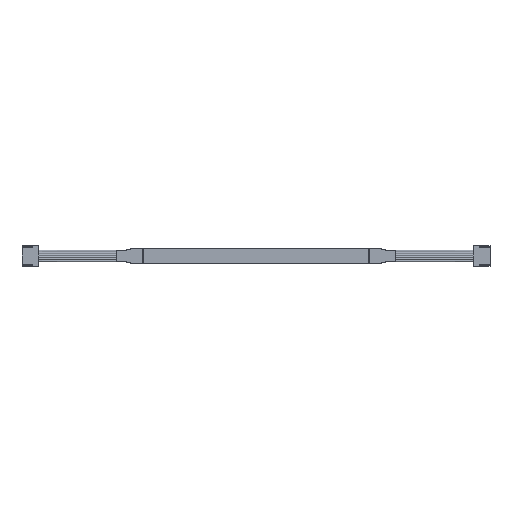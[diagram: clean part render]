
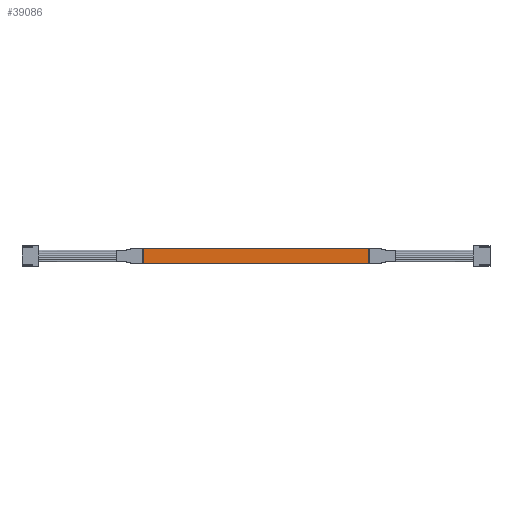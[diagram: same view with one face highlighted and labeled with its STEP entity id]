
A CAD part, front view. The second image highlights one B-rep face of the part: STEP entity #39086.
In plain terms, the highlighted planar face has unit normal (0, -1, 0).
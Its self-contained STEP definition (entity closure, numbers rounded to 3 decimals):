
#376 = DIRECTION ( 'NONE',  ( 0., 0., 1. ) ) ;
#2270 = EDGE_CURVE ( 'NONE', #21206, #67697, #8004, .T. ) ;
#8004 = LINE ( 'NONE', #24311, #31382 ) ;
#8819 = CARTESIAN_POINT ( 'NONE',  ( 35., -0.2, 6. ) ) ;
#8854 = EDGE_LOOP ( 'NONE', ( #42681, #69630, #54636, #44085 ) ) ;
#11349 = EDGE_CURVE ( 'NONE', #21206, #23119, #53711, .T. ) ;
#13450 = LINE ( 'NONE', #39326, #24381 ) ;
#14753 = CARTESIAN_POINT ( 'NONE',  ( -140., -0.2, -6. ) ) ;
#17811 = EDGE_CURVE ( 'NONE', #67697, #64907, #66429, .T. ) ;
#17914 = DIRECTION ( 'NONE',  ( -1., 0., 0. ) ) ;
#21206 = VERTEX_POINT ( 'NONE', #8819 ) ;
#22880 = CARTESIAN_POINT ( 'NONE',  ( 35., -0.2, -6. ) ) ;
#23119 = VERTEX_POINT ( 'NONE', #48262 ) ;
#24311 = CARTESIAN_POINT ( 'NONE',  ( 35., -0.2, 6. ) ) ;
#24381 = VECTOR ( 'NONE', #66939, 1000. ) ;
#25364 = DIRECTION ( 'NONE',  ( 0., 0., -1. ) ) ;
#26584 = PLANE ( 'NONE',  #34988 ) ;
#27301 = DIRECTION ( 'NONE',  ( 0., 1., 0. ) ) ;
#31382 = VECTOR ( 'NONE', #25364, 1000. ) ;
#34988 = AXIS2_PLACEMENT_3D ( 'NONE', #48180, #27301, #376 ) ;
#37498 = VECTOR ( 'NONE', #54428, 1000. ) ;
#39086 = ADVANCED_FACE ( 'NONE', ( #47498 ), #26584, .F. ) ;
#39326 = CARTESIAN_POINT ( 'NONE',  ( -140., -0.2, 6. ) ) ;
#42681 = ORIENTED_EDGE ( 'NONE', *, *, #11349, .T. ) ;
#44085 = ORIENTED_EDGE ( 'NONE', *, *, #2270, .F. ) ;
#47498 = FACE_OUTER_BOUND ( 'NONE', #8854, .T. ) ;
#47652 = VECTOR ( 'NONE', #17914, 1000. ) ;
#48180 = CARTESIAN_POINT ( 'NONE',  ( 35., -0.2, 6. ) ) ;
#48262 = CARTESIAN_POINT ( 'NONE',  ( -140., -0.2, 6. ) ) ;
#48763 = CARTESIAN_POINT ( 'NONE',  ( 35., -0.2, 6. ) ) ;
#53711 = LINE ( 'NONE', #48763, #37498 ) ;
#54428 = DIRECTION ( 'NONE',  ( -1., 0., 0. ) ) ;
#54636 = ORIENTED_EDGE ( 'NONE', *, *, #17811, .F. ) ;
#58508 = EDGE_CURVE ( 'NONE', #23119, #64907, #13450, .T. ) ;
#59312 = CARTESIAN_POINT ( 'NONE',  ( 35., -0.2, -6. ) ) ;
#64907 = VERTEX_POINT ( 'NONE', #14753 ) ;
#66429 = LINE ( 'NONE', #22880, #47652 ) ;
#66939 = DIRECTION ( 'NONE',  ( 0., 0., -1. ) ) ;
#67697 = VERTEX_POINT ( 'NONE', #59312 ) ;
#69630 = ORIENTED_EDGE ( 'NONE', *, *, #58508, .T. ) ;
